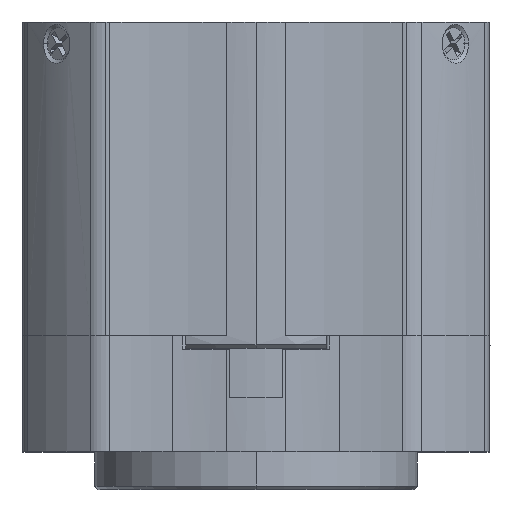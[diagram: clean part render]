
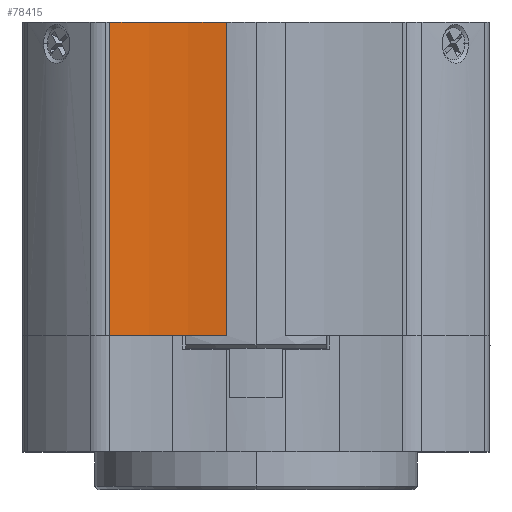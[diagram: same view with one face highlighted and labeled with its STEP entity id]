
A CAD part, top view. The second image highlights one B-rep face of the part: STEP entity #78415.
In plain terms, the highlighted cylindrical face has radius 40 mm (diameter 80 mm), a partial arc.
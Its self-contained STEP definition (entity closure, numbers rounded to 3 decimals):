
#4850 = EDGE_CURVE ( 'NONE', #28281, #51247, #79463, .T. ) ;
#5342 = CARTESIAN_POINT ( 'NONE',  ( -7.764, -1.2, 61.26 ) ) ;
#5411 = DIRECTION ( 'NONE',  ( 0., 1., 0. ) ) ;
#5653 = CARTESIAN_POINT ( 'NONE',  ( -7.764, 0., 61.26 ) ) ;
#5988 = CARTESIAN_POINT ( 'NONE',  ( -7.764, 29.1, 61.26 ) ) ;
#7745 = EDGE_CURVE ( 'NONE', #28281, #24482, #18938, .T. ) ;
#11235 = CYLINDRICAL_SURFACE ( 'NONE', #86957, 40. ) ;
#12734 = EDGE_CURVE ( 'NONE', #24482, #80164, #51603, .T. ) ;
#12890 = AXIS2_PLACEMENT_3D ( 'NONE', #5988, #67967, #60777 ) ;
#14303 = VECTOR ( 'NONE', #75944, 1000. ) ;
#15740 = LINE ( 'NONE', #70072, #14303 ) ;
#17115 = EDGE_CURVE ( 'NONE', #51247, #80164, #15740, .T. ) ;
#17983 = DIRECTION ( 'NONE',  ( 0., 1., 0. ) ) ;
#18938 = LINE ( 'NONE', #74145, #84181 ) ;
#19149 = ORIENTED_EDGE ( 'NONE', *, *, #7745, .F. ) ;
#24482 = VERTEX_POINT ( 'NONE', #79701 ) ;
#28281 = VERTEX_POINT ( 'NONE', #81877 ) ;
#29838 = ORIENTED_EDGE ( 'NONE', *, *, #17115, .T. ) ;
#40192 = EDGE_LOOP ( 'NONE', ( #69780, #29838, #77524, #19149 ) ) ;
#51247 = VERTEX_POINT ( 'NONE', #61118 ) ;
#51603 = CIRCLE ( 'NONE', #12890, 40. ) ;
#52958 = FACE_OUTER_BOUND ( 'NONE', #40192, .T. ) ;
#57274 = CARTESIAN_POINT ( 'NONE',  ( -2.735, 29.1, 21.577 ) ) ;
#60777 = DIRECTION ( 'NONE',  ( 0., 0., 1. ) ) ;
#61118 = CARTESIAN_POINT ( 'NONE',  ( -2.735, 0., 21.577 ) ) ;
#61354 = DIRECTION ( 'NONE',  ( 0., 0., 1. ) ) ;
#61821 = DIRECTION ( 'NONE',  ( 0., -1., 0. ) ) ;
#67967 = DIRECTION ( 'NONE',  ( 0., -1., 0. ) ) ;
#69780 = ORIENTED_EDGE ( 'NONE', *, *, #4850, .T. ) ;
#70072 = CARTESIAN_POINT ( 'NONE',  ( -2.735, -1.2, 21.577 ) ) ;
#74145 = CARTESIAN_POINT ( 'NONE',  ( -13.595, -1.2, 21.687 ) ) ;
#75944 = DIRECTION ( 'NONE',  ( 0., 1., 0. ) ) ;
#77524 = ORIENTED_EDGE ( 'NONE', *, *, #12734, .F. ) ;
#78415 = ADVANCED_FACE ( 'NONE', ( #52958 ), #11235, .F. ) ;
#79463 = CIRCLE ( 'NONE', #86625, 40. ) ;
#79701 = CARTESIAN_POINT ( 'NONE',  ( -13.595, 29.1, 21.687 ) ) ;
#80164 = VERTEX_POINT ( 'NONE', #57274 ) ;
#81877 = CARTESIAN_POINT ( 'NONE',  ( -13.595, 0., 21.687 ) ) ;
#84181 = VECTOR ( 'NONE', #5411, 1000. ) ;
#86236 = DIRECTION ( 'NONE',  ( 0., 0., 1. ) ) ;
#86625 = AXIS2_PLACEMENT_3D ( 'NONE', #5653, #61821, #61354 ) ;
#86957 = AXIS2_PLACEMENT_3D ( 'NONE', #5342, #17983, #86236 ) ;
